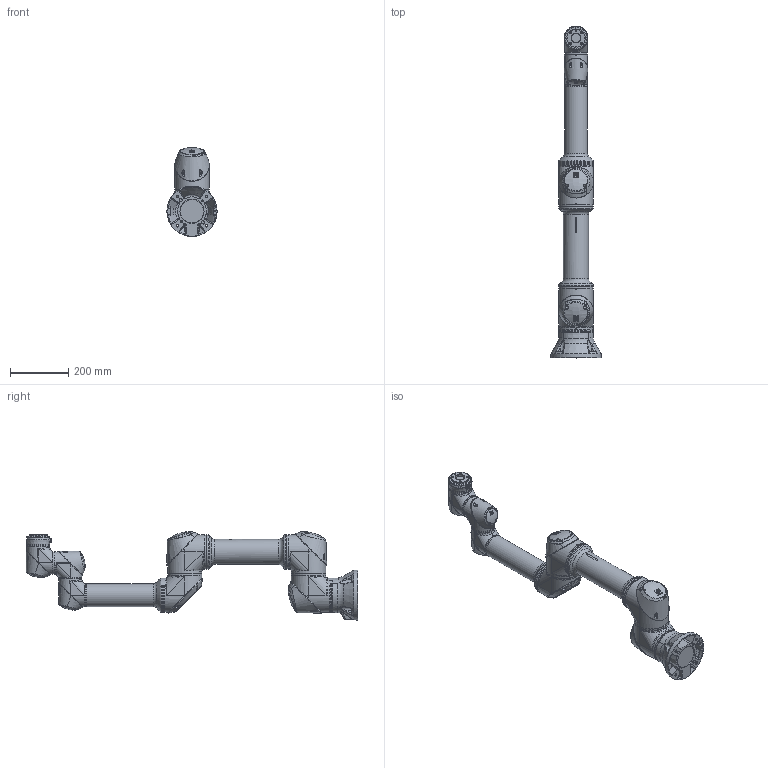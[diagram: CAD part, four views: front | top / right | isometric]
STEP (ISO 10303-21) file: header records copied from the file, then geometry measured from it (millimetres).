
FILE_DESCRIPTION(/* description */ (''),/* implementation_level */ '2;1');
FILE_NAME(/* name */ 'RB5-850E.stp',/* time_stamp */ '2023-04-06T11:40:41+09:00',/* author */ ('ajm08'),/* organization */ (''),/* preprocessor_version */ 'ST-DEVELOPER v19.2',/* originating_system */ 'Autodesk Inventor 2023',/* authorisation */ '');
FILE_SCHEMA (('AUTOMOTIVE_DESIGN { 1 0 10303 214 3 1 1 }'));
Length unit declared in the file: millimetre
Products named in the file (8): RB5-850E; RB5-850E_BASE; RB5-850E_LINK1; RB5-850E_LINK2; RB5-850E_LINK3; RB5-850E_LINK4; RB5-850E_LINK5; RB5-850E_LINK6
Assembly tree (7 placements, depth 2):
  RB5-850E
    RB5-850E_BASE
    RB5-850E_LINK1
    RB5-850E_LINK2
    RB5-850E_LINK3
    RB5-850E_LINK4
    RB5-850E_LINK5
    RB5-850E_LINK6
Bounding box: 172.83 x 1138.46 x 304.71 mm (x, y, z)
Volume: 13194362.1 mm3; surface area: 968786.1 mm2
Topology: 29 solids, 32 shells, 1986 faces, 5025 edges, 3204 vertices
Faces by surface type: bspline 1060, plane 591, cylinder 195, cone 90, torus 30, sphere 20
Full cylindrical faces by diameter (mm): 1.5 x12, 4 x1, 4.5 x16, 5 x1, 5.1 x12, 6 x5, 6.647 x2, 8.5 x4, 10 x2, 11.459 x2, 14 x2, 14.5 x1, 16 x1, 31.53 x1, 62.95 x1, 70 x4, 71.5 x4, 72.6 x3, 78 x10, 86 x1, 88.5 x3, 110 x6, 111.5 x6, 112.6 x4, 118 x23
Entity records: 261682 total; most frequent: CARTESIAN_POINT 218496, ORIENTED_EDGE 9908, DIRECTION 6159, EDGE_CURVE 4954, VERTEX_POINT 3204, AXIS2_PLACEMENT_3D 2373, EDGE_LOOP 2198, B_SPLINE_CURVE_WITH_KNOTS 2047
